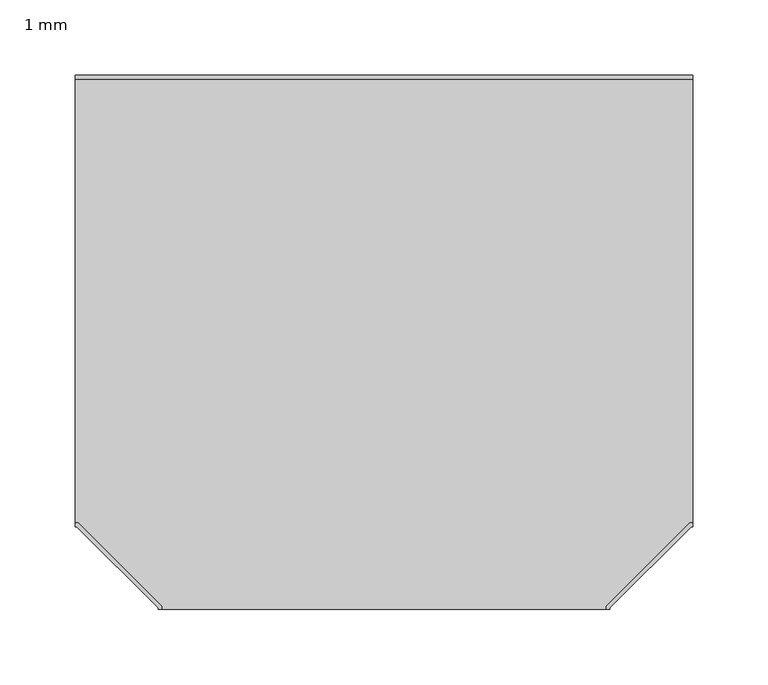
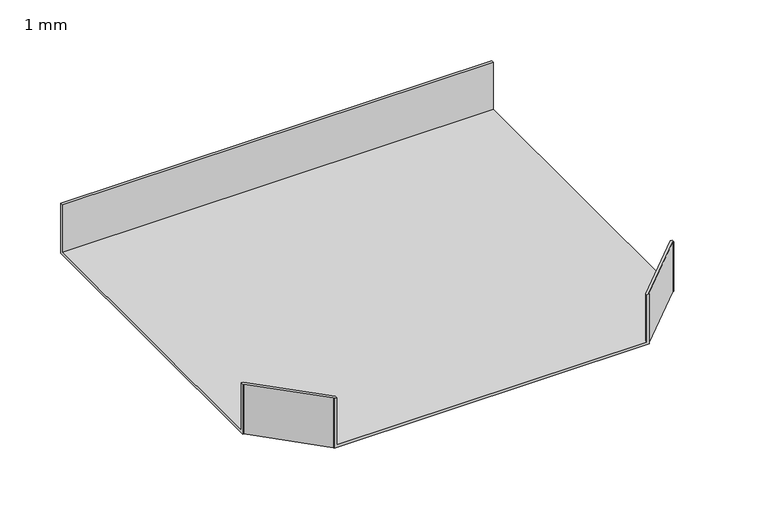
"""IFC4 building model written with IfcOpenShell, lengths in millimetres: cable carrier fitting geometry, BAKS_Trójnik_koryta : 1 mm."""

from ifc_helpers import new_model, si_unit, origin, place, context, project, spatial, faceted_brep, source, transform, mapped, element, save


def cable_carrier_fitting_1_mm_2ea6bbca(model_context):
    return source(origin(), model_context, "Body", "Brep", [
        faceted_brep([(-147.46, -202.9478976, 25.0), (-202.9478976, -147.46, 25.0), (-205.0, -147.46, 25.0), (-205.0, -150.0, 25.0), (-204.0, -150.0, 25.0), (-150.0, -204.0, 25.0), (-150.0, -205.0, 25.0), (-147.46, -205.0, 25.0), (147.46, -202.9478976, 25.0), (147.46, -205.0, 25.0), (150.0, -205.0, 25.0), (150.0, -204.0, 25.0), (204.0, -150.0, 25.0), (205.0, -150.0, 25.0), (205.0, -147.46, 25.0), (202.9478976, -147.46, 25.0), (205.0, 150.0, 25.0), (-205.0, 150.0, 25.0), (-205.0, 147.46, 25.0), (205.0, 147.46, 25.0), (-150.0, -205.0, -25.0), (-150.0, -204.0, -25.0), (-204.0, -150.0, -25.0), (-205.0, -150.0, -25.0), (-205.0, 150.0, -25.0), (205.0, 150.0, -25.0), (205.0, -150.0, -25.0), (204.0, -150.0, -25.0), (150.0, -204.0, -25.0), (150.0, -205.0, -25.0), (-147.46, -202.9478976, -22.46), (-202.9478976, -147.46, -22.46), (-205.0, -147.46, -22.46), (-205.0, 147.46, -22.46), (-204.0, -150.0, -22.46), (-150.0, -204.0, -22.46), (147.46, -205.0, -22.46), (-147.46, -205.0, -22.46), (150.0, -204.0, -22.46), (204.0, -150.0, -22.46), (205.0, 147.46, -22.46), (205.0, -147.46, -22.46), (202.9478976, -147.46, -22.46), (147.46, -202.9478976, -22.46)], [[[0, 1, 2, 3, 4, 5, 6, 7]], [[8, 9, 10, 11, 12, 13, 14, 15]], [[16, 17, 18, 19]], [[20, 21, 22, 23, 24, 25, 26, 27, 28, 29]], [[1, 0, 30, 31]], [[2, 1, 31, 32]], [[3, 2, 32, 33, 18, 17, 24, 23]], [[4, 3, 23, 22, 34]], [[5, 4, 34, 22, 21, 35]], [[20, 6, 5, 35, 21]], [[7, 6, 20, 29, 10, 9, 36, 37]], [[0, 7, 37, 30]], [[12, 11, 38, 28, 27, 39]], [[26, 13, 12, 39, 27]], [[14, 13, 26, 25, 16, 19, 40, 41]], [[15, 14, 41, 42]], [[8, 15, 42, 43]], [[9, 8, 43, 36]], [[11, 10, 29, 28, 38]], [[24, 17, 16, 25]], [[19, 18, 33, 40]], [[37, 36, 43, 42, 41, 40, 33, 32, 31, 30]]]),
    ])


if __name__ == "__main__":
    model = new_model("IFC4")
    model_context = context("Model", 3, world=origin())
    ifc_project = project(units=[si_unit("LENGTHUNIT", "METRE", prefix="MILLI")], contexts=[model_context])
    site = spatial("IfcSite", under=ifc_project)
    building = spatial("IfcBuilding", under=site)
    placement = place(None, origin())
    cable_carrier_fitting_1_mm_shape = cable_carrier_fitting_1_mm_2ea6bbca(model_context)
    element("IfcCableCarrierFitting", 1, ObjectType="BAKS_Trójnik_koryta : 1 mm", at=placement, inside=building, context=model_context, shape_type="MappedRepresentation", body=[
        mapped(cable_carrier_fitting_1_mm_shape, transform((0.0, 0.0, 0.0), x_axis=(1.0, 0.0, 0.0), y_axis=(0.0, 1.0, 0.0), z_axis=(0.0, 0.0, 1.0))),
    ])
    save(model, "model.ifc")
